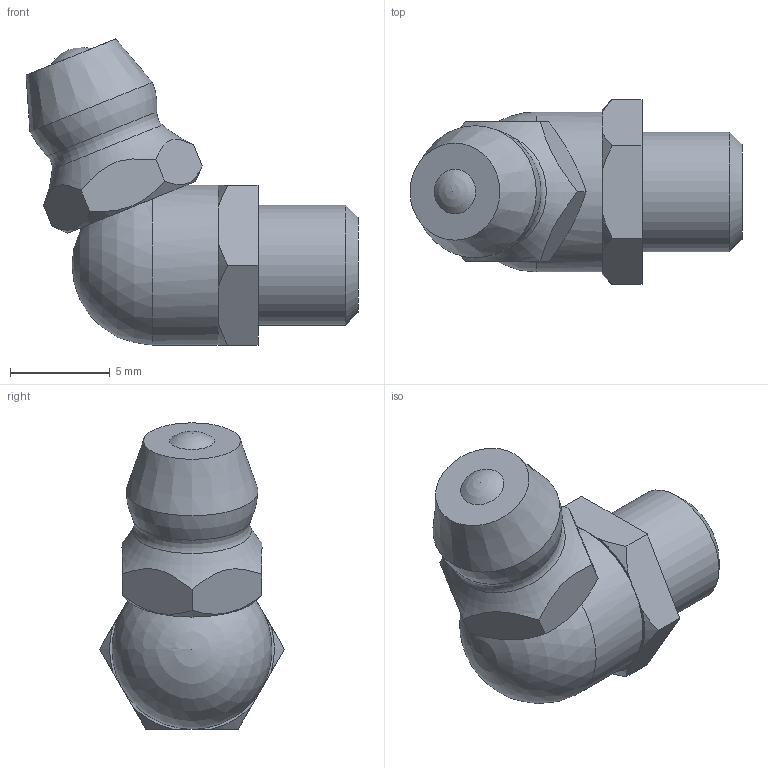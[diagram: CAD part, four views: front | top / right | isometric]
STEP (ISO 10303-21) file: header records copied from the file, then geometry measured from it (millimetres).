
FILE_DESCRIPTION(/* description */ ('STEP AP214'),/* implementation_level */ '2;1');
FILE_NAME(/* name */ 'hsr_ftht_B-M6F_grease_nipple_joint',/* time_stamp */ '2026-09-18T08:09:40+02:00',/* author */ ('License CC BY-ND 4.0'),/* organization */ ('CADENAS'),/* preprocessor_version */ 'ST-DEVELOPER v20',/* originating_system */ 'PARTsolutions',/* authorisation */ ' ');
FILE_SCHEMA (('AUTOMOTIVE_DESIGN {1 0 10303 214 3 1 1}'));
Length unit declared in the file: millimetre
Products named in the file (1): hsr_ftht_B-M6F_grease_nipple_joint
Bounding box: 16.6 x 9.24 x 15.31 mm (x, y, z)
Volume: 801.4 mm3; surface area: 568.4 mm2
Topology: 1 solids, 1 shells, 38 faces, 93 edges, 58 vertices
Faces by surface type: plane 22, cone 9, sphere 3, cylinder 2, torus 2
Full cylindrical faces by diameter (mm): 6 x1, 8 x1
Entity records: 1092 total; most frequent: CARTESIAN_POINT 270, ORIENTED_EDGE 156, DIRECTION 156, EDGE_CURVE 78, AXIS2_PLACEMENT_3D 63, VERTEX_POINT 53, EDGE_LOOP 49, FACE_BOUND 49
